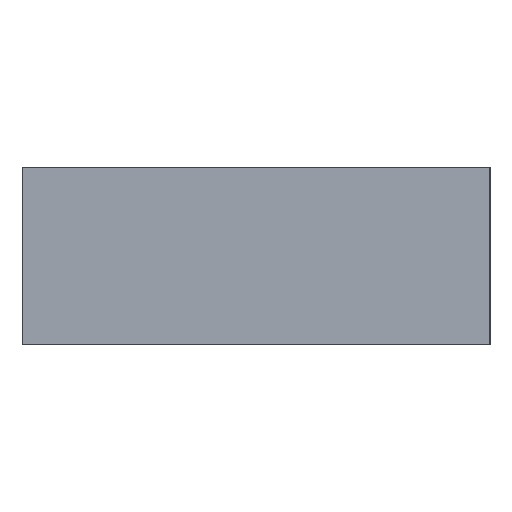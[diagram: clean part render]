
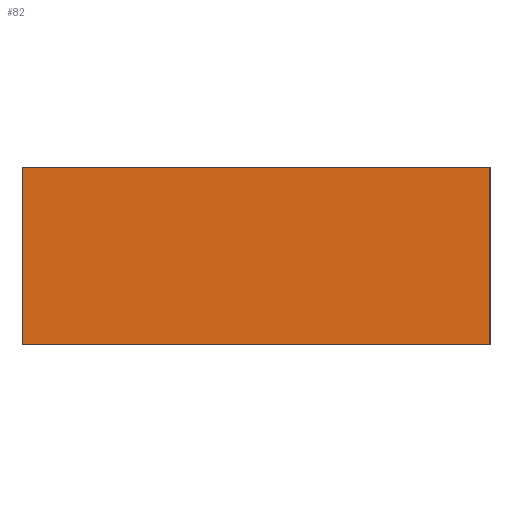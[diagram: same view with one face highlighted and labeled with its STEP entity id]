
A CAD part, left-side view. The second image highlights one B-rep face of the part: STEP entity #82.
In plain terms, the highlighted planar face has unit normal (-1, 0, 0).
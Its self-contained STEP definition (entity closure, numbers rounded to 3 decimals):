
#82 = ADVANCED_FACE( '', ( #170 ), #171, .F. );
#170 = FACE_OUTER_BOUND( '', #259, .T. );
#171 = PLANE( '', #260 );
#259 = EDGE_LOOP( '', ( #432, #433, #434, #435 ) );
#260 = AXIS2_PLACEMENT_3D( '', #436, #437, #438 );
#432 = ORIENTED_EDGE( '', *, *, #556, .T. );
#433 = ORIENTED_EDGE( '', *, *, #580, .F. );
#434 = ORIENTED_EDGE( '', *, *, #585, .F. );
#435 = ORIENTED_EDGE( '', *, *, #524, .T. );
#436 = CARTESIAN_POINT( '', ( -6.55, 0., 6.075 ) );
#437 = DIRECTION( '', ( 1., 0., 0. ) );
#438 = DIRECTION( '', ( 0., 0., -1. ) );
#524 = EDGE_CURVE( '', #619, #617, #620, .T. );
#556 = EDGE_CURVE( '', #617, #670, #672, .T. );
#580 = EDGE_CURVE( '', #702, #670, #704, .T. );
#585 = EDGE_CURVE( '', #619, #702, #710, .T. );
#617 = VERTEX_POINT( '', #749 );
#619 = VERTEX_POINT( '', #752 );
#620 = LINE( '', #753, #754 );
#670 = VERTEX_POINT( '', #824 );
#672 = LINE( '', #827, #828 );
#702 = VERTEX_POINT( '', #874 );
#704 = LINE( '', #877, #878 );
#710 = LINE( '', #886, #887 );
#749 = CARTESIAN_POINT( '', ( -6.55, 0., -6.075 ) );
#752 = CARTESIAN_POINT( '', ( -6.55, 0., 6.075 ) );
#753 = CARTESIAN_POINT( '', ( -6.55, 0., 6.075 ) );
#754 = VECTOR( '', #918, 1000. );
#824 = CARTESIAN_POINT( '', ( -6.55, -32., -6.075 ) );
#827 = CARTESIAN_POINT( '', ( -6.55, 0., -6.075 ) );
#828 = VECTOR( '', #949, 1000. );
#874 = CARTESIAN_POINT( '', ( -6.55, -32., 6.075 ) );
#877 = CARTESIAN_POINT( '', ( -6.55, -32., 6.075 ) );
#878 = VECTOR( '', #967, 1000. );
#886 = CARTESIAN_POINT( '', ( -6.55, 0., 6.075 ) );
#887 = VECTOR( '', #970, 1000. );
#918 = DIRECTION( '', ( 0., 0., -1. ) );
#949 = DIRECTION( '', ( 0., -1., 0. ) );
#967 = DIRECTION( '', ( 0., 0., -1. ) );
#970 = DIRECTION( '', ( 0., -1., 0. ) );
